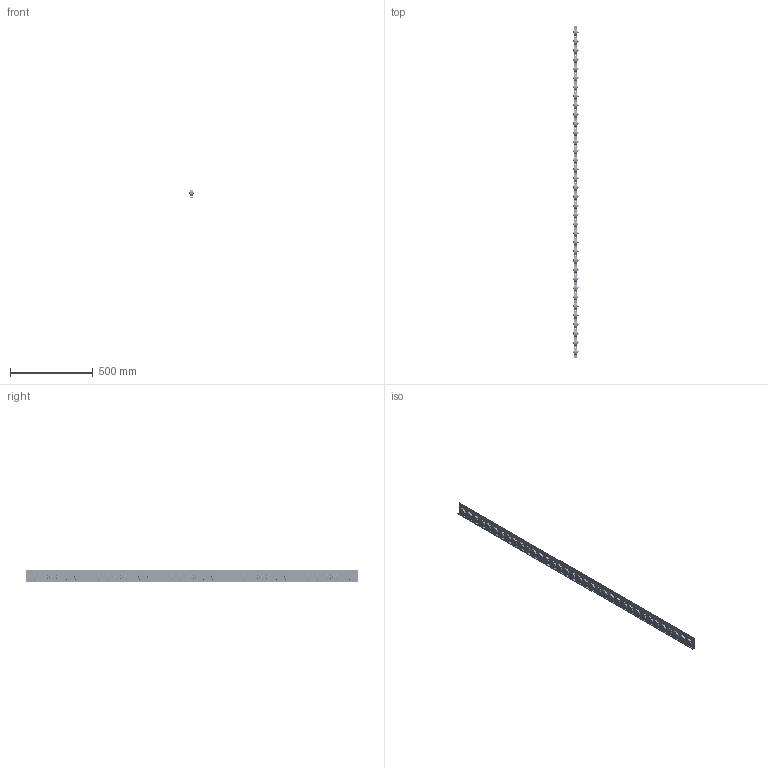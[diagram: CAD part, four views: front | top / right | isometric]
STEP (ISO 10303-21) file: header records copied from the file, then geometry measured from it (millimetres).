
FILE_DESCRIPTION( ( 'Unknown' ), '1' );
FILE_NAME( 'D:/Construktor/Listwy rolkowe 2015/Listwa T801L/Listwa T801L.stp', 'Unknown', ( 'Unknown' ), ( 'Unknown' ), 'PSStep 17.0.49', 'Unknown', ' ' );
FILE_SCHEMA( ( 'AUTOMOTIVE_DESIGN { 1 0 10303 214 1 1 1 1 }' ) );
Length unit declared in the file: millimetre
Products named in the file (9): Assem1; DIN_931_M8x35; DIN_931_M8x35-oa0; DIN_931_M8x35-oa1; Nut_DIN_980_M_M8_v10.50; Ceownik T800GL; Rolka 611; Rolka 611-oa2; Rolka 611-oa3
Assembly tree (109 placements, depth 2):
  Assem1
    DIN_931_M8x35  x34
    DIN_931_M8x35-oa0
    DIN_931_M8x35-oa1
    Nut_DIN_980_M_M8_v10.50  x36
    Ceownik T800GL
    Rolka 611  x34
    Rolka 611-oa2
    Rolka 611-oa3
Bounding box: 30.3 x 2000 x 70 mm (x, y, z)
Volume: 1051697.4 mm3; surface area: 691197.3 mm2
Topology: 109 solids, 109 shells, 3700 faces, 9204 edges, 6010 vertices
Faces by surface type: plane 2384, cylinder 560, cone 540, torus 216
Full cylindrical faces by diameter (mm): 6.2 x18, 6.466 x36, 6.647 x36, 6.697 x36, 8 x72, 8.2 x36, 8.3 x36, 8.4 x36, 11.63 x36, 12.5 x36, 14 x72, 30 x36, 32 x36, 42 x36
Entity records: 12978 total; most frequent: CARTESIAN_POINT 1995, DIRECTION 1812, ORIENTED_EDGE 1380, AXIS2_PLACEMENT_3D 755, EDGE_CURVE 690, EDGE_LOOP 558, VERTEX_POINT 514, FACE_OUTER_BOUND 417
